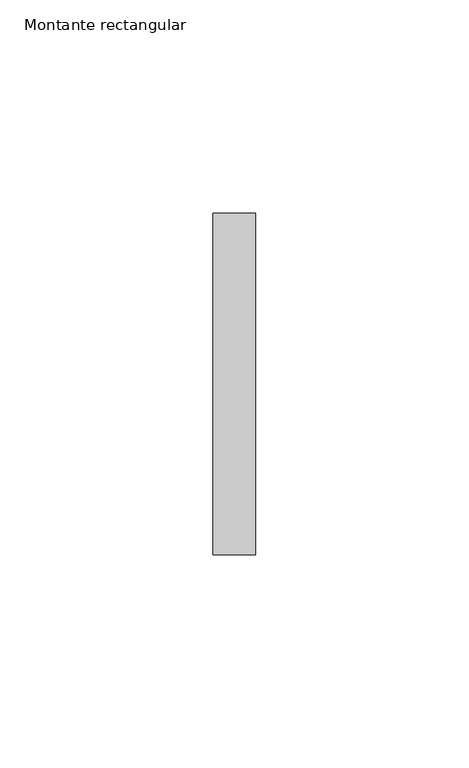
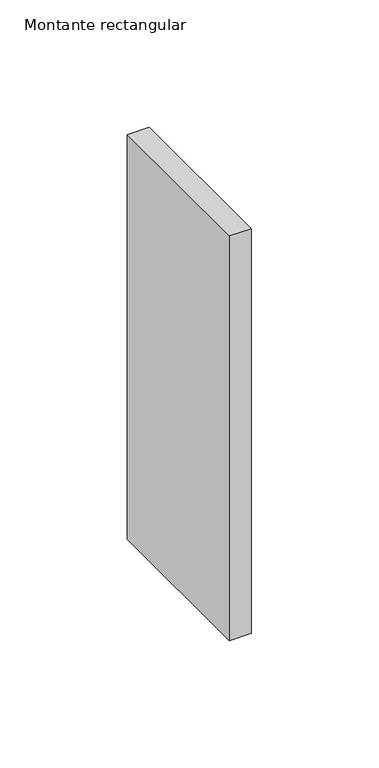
"""IFC4 building model written with IfcOpenShell, lengths in millimetres: member geometry, Montante rectangular : Junta de paves."""

from ifc_helpers import new_model, si_unit, frame, origin, place, context, project, spatial, polyline, outline, extrude, source, transform, mapped, element, save


def montante_rectangular_e7061a9b(model_context):
    return source(origin(), model_context, "Body", "SweptSolid", [
        extrude(outline(polyline([(0.0, 40.0), (0.0, -40.0), (-10.0, -40.0), (-10.0, 40.0), (0.0, 40.0)])), frame((0.0, 0.0, -193.8888889), z_axis=(0.0, 0.0, 1.0), x_axis=(1.0, 0.0, 0.0)), (0.0, 0.0, 1.0), 193.8888889),
    ])


if __name__ == "__main__":
    model = new_model("IFC4")
    model_context = context("Model", 3, world=origin())
    ifc_project = project(units=[si_unit("LENGTHUNIT", "METRE", prefix="MILLI")], contexts=[model_context])
    site = spatial("IfcSite", under=ifc_project)
    building = spatial("IfcBuilding", under=site)
    placement = place(None, origin())
    montante_rectangular_shape = montante_rectangular_e7061a9b(model_context)
    element("IfcMember", 1, ObjectType="Montante rectangular : Junta de paves", at=placement, inside=building, context=model_context, shape_type="MappedRepresentation", body=[
        mapped(montante_rectangular_shape, transform((0.0, 0.0, 0.0), x_axis=(1.0, 0.0, 0.0), y_axis=(0.0, 1.0, 0.0), z_axis=(0.0, 0.0, 1.0))),
    ])
    save(model, "model.ifc")
